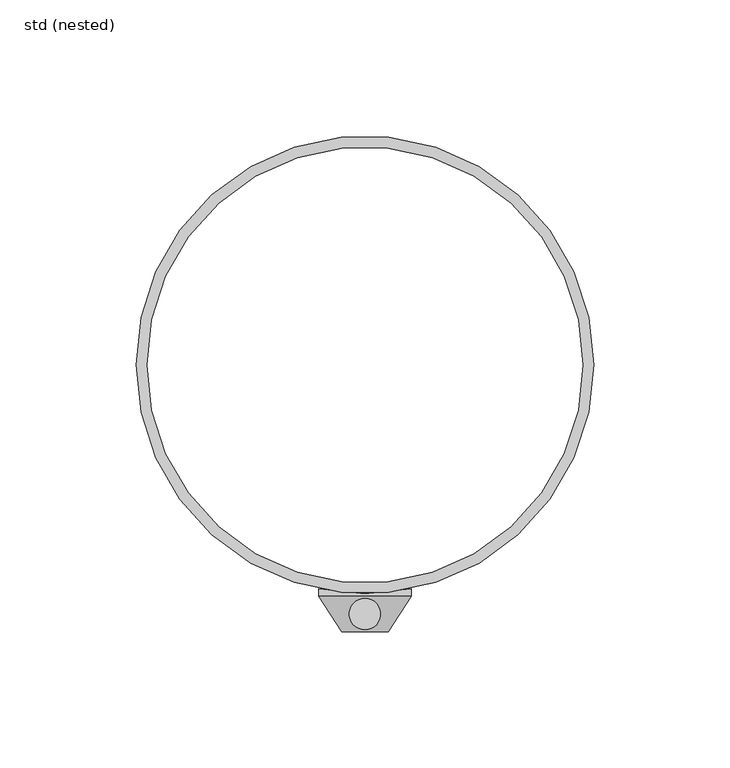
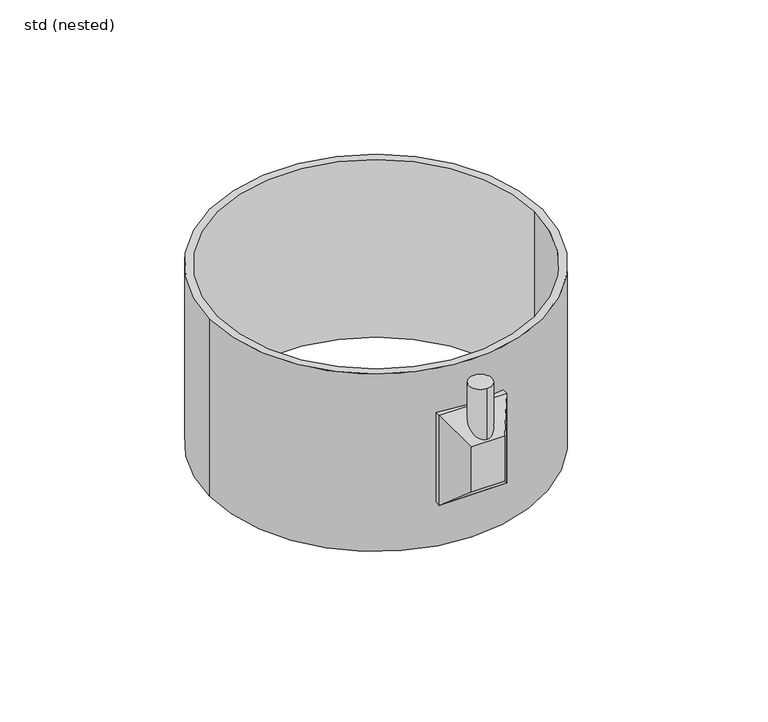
"""IFC4 building model written with IfcOpenShell, lengths in millimetres: unitary equipment geometry, ZZZ_do not use_ME_GEN_flat roof heating_ACO : std (nested)."""

from ifc_helpers import new_model, si_unit, point, frame, origin, origin_2d, place, context, project, spatial, polyline, circle_curve, ellipse_curve, trimmed, segment, composite_curve, outline, extrude, source, transform, mapped, element, save
from ifc_brep_helpers import plane_surface, cylinder_surface, advanced_brep


def std_nested_3be34474(model_context):
    return source(origin(), model_context, "Body", "SolidModel", [
        advanced_brep(
        [(8.5, -98.0, -35.5), (-8.5, -98.0, -35.5), (-8.5, -98.0, -59.5), (8.5, -98.0, -59.5), (17.0, -85.0, -23.5), (17.0, -85.0, -71.5), (-17.0, -85.0, -71.5), (-17.0, -85.0, -23.5), (0.0, -97.25, -34.8076923), (0.0, -85.75, -24.1923077), (0.0, -85.75, -7.5), (0.0, -97.25, -7.5)],
        [
            (0, 1),
            (1, 2),
            (2, 3),
            (3, 0),
            (4, 5),
            (5, 6),
            (6, 7),
            (7, 4),
            (3, 5),
            (4, 0),
            (2, 6),
            (1, 7),
            (8, 9, ellipse_curve(frame((0.0, -91.5, -29.5), z_axis=(0.0, 0.6782801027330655, -0.7348034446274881), x_axis=(0.0, -0.7348034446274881, -0.6782801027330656)), 7.8252219, 5.75)),
            (9, 8, ellipse_curve(frame((0.0, -91.5, -29.5), z_axis=(0.0, 0.6782801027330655, -0.7348034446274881), x_axis=(0.0, -0.7348034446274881, -0.6782801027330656)), 7.8252219, 5.75)),
            (10, 11, circle_curve(frame((0.0, -91.5, -7.5), z_axis=(0.0, 0.0, 1.0), x_axis=(0.0, -1.0, 0.0)), 5.75)),
            (11, 10, circle_curve(frame((0.0, -91.5, -7.5), z_axis=(0.0, 0.0, 1.0), x_axis=(0.0, -1.0, 0.0)), 5.75)),
            (10, 9),
            (8, 11),
        ],
        [
            plane_surface(frame((0.0, -98.0, -47.5), z_axis=(0.0, -1.0, 0.0), x_axis=(0.0, 0.0, -1.0))),
            plane_surface(frame((0.0, -85.0, -47.5), z_axis=(0.0, 1.0, 0.0), x_axis=(0.0, 0.0, -1.0))),
            plane_surface(frame((17.0, -85.0, -47.5), z_axis=(0.8369696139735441, -0.5472493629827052, 0.0), x_axis=(0.0, 0.0, 1.0))),
            plane_surface(frame((0.0, -85.0, -71.5), z_axis=(0.0, -0.6782801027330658, -0.7348034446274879), x_axis=(1.0, 0.0, 0.0))),
            plane_surface(frame((-17.0, -85.0, -47.5), z_axis=(-0.8369696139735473, -0.5472493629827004, 0.0), x_axis=(0.0, 0.0, -1.0))),
            plane_surface(frame((0.0, -85.0, -23.5), z_axis=(0.0, -0.6782801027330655, 0.7348034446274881), x_axis=(-1.0, 0.0, 0.0))),
            plane_surface(frame((0.0, -91.5, -7.5), z_axis=(0.0, 0.0, 1.0), x_axis=(1.0, 0.0, 0.0))),
            cylinder_surface(frame((0.0, -91.5, -47.5), z_axis=(0.0, 0.0, -1.0), x_axis=(0.0, -1.0, 0.0)), 5.75),
        ],
        [
            (0, [[1, 2, 3, 4]]),
            (1, [[5, 6, 7, 8]]),
            (2, [[-4, 9, -5, 10]]),
            (3, [[-3, 11, -6, -9]]),
            (4, [[-2, 12, -7, -11]]),
            (5, [[-1, -10, -8, -12], [13, 14]]),
            (6, [[15, 16]]),
            (7, [[-15, 17, -13, 18]]),
            (7, [[-16, -18, -14, -17]]),
        ],
    ),
        extrude(outline(composite_curve([segment(polyline([(17.0, -85.0), (-17.0, -85.0), (-17.0, -82.2617773)]), True, "CONTINUOUS"), segment(trimmed(circle_curve(origin_2d(), 84.0), [point((-17.0, -82.2617773))], [point((17.0, -82.2617773))], True, "CARTESIAN"), True, "CONTINUOUS"), segment(polyline([(17.0, -82.2617773), (17.0, -85.0)]), True, "CONTINUOUS")], self_intersect=False)), frame((0.0, 0.0, -71.5), z_axis=(0.0, 0.0, 1.0), x_axis=(1.0, 0.0, 0.0)), (0.0, 0.0, 1.0), 48.0),
        extrude(outline(composite_curve([segment(trimmed(circle_curve(origin_2d(), 84.0), [point((-84.0, 0.0))], [point((84.0, 0.0))], False, "CARTESIAN"), True, "CONTINUOUS"), segment(trimmed(circle_curve(origin_2d(), 84.0), [point((84.0, 0.0))], [point((-84.0, 0.0))], False, "CARTESIAN"), True, "CONTINUOUS")], self_intersect=False), holes=[composite_curve([segment(trimmed(circle_curve(origin_2d(), 80.0), [point((-80.0, 0.0))], [point((80.0, 0.0))], True, "CARTESIAN"), True, "CONTINUOUS"), segment(trimmed(circle_curve(origin_2d(), 80.0), [point((80.0, 0.0))], [point((-80.0, 0.0))], True, "CARTESIAN"), True, "CONTINUOUS")], self_intersect=False)]), frame((0.0, 0.0, -95.0), z_axis=(0.0, 0.0, 1.0), x_axis=(1.0, 0.0, 0.0)), (0.0, 0.0, 1.0), 95.0),
    ])


if __name__ == "__main__":
    model = new_model("IFC4")
    model_context = context("Model", 3, world=origin())
    ifc_project = project(units=[si_unit("LENGTHUNIT", "METRE", prefix="MILLI")], contexts=[model_context])
    site = spatial("IfcSite", under=ifc_project)
    building = spatial("IfcBuilding", under=site)
    placement = place(None, origin())
    std_nested_shape = std_nested_3be34474(model_context)
    element("IfcUnitaryEquipment", 1, ObjectType="ZZZ_do not use_ME_GEN_flat roof heating_ACO : std (nested)", at=placement, inside=building, context=model_context, shape_type="MappedRepresentation", body=[
        mapped(std_nested_shape, transform((0.0, 0.0, 0.0), x_axis=(1.0, 0.0, 0.0), y_axis=(0.0, 1.0, 0.0), z_axis=(0.0, 0.0, 1.0))),
    ])
    save(model, "model.ifc")
